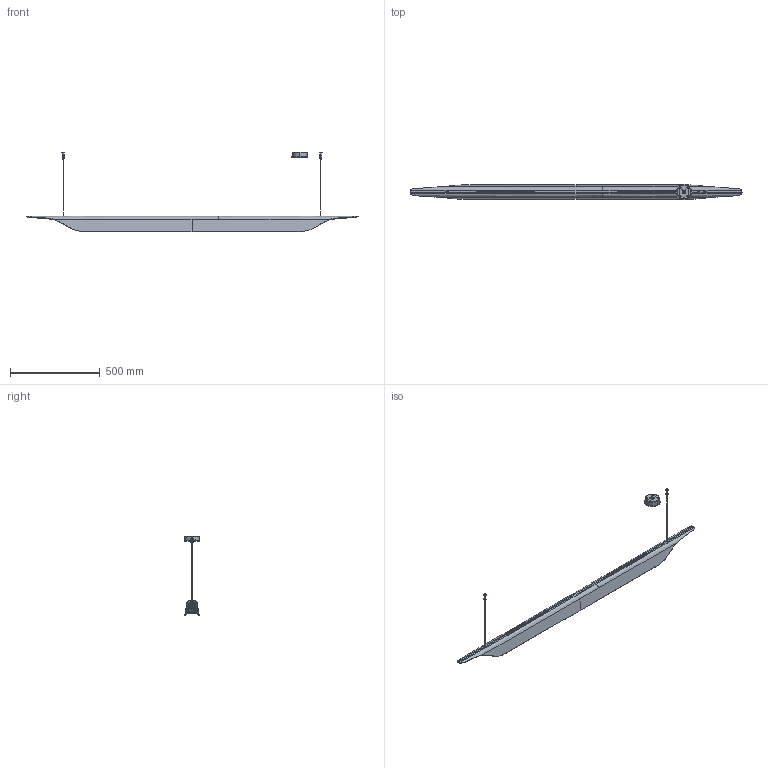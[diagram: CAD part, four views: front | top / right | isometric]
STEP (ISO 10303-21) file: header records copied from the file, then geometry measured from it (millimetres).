
FILE_DESCRIPTION (( 'STEP AP214' ), '1' );
FILE_NAME ('205_MEDIA_S_PL_3D.STEP', '2021-05-19T12:57:43', ( '' ), ( '' ), 'SwSTEP 2.0', 'SolidWorks 2021', '' );
FILE_SCHEMA (( 'AUTOMOTIVE_DESIGN' ));
Length unit declared in the file: millimetre
Products named in the file (1): 205_MEDIA_S_PL_3D
Bounding box: 1846 x 88 x 440 mm (x, y, z)
Volume: 2505413 mm3; surface area: 919898.5 mm2
Topology: 15 solids, 15 shells, 3058 faces, 8332 edges, 5348 vertices
Faces by surface type: cylinder 2021, plane 735, bspline 238, cone 48, torus 16
Entity records: 175806 total; most frequent: CARTESIAN_POINT 58847, DIRECTION 17742, ORIENTED_EDGE 16664, EDGE_CURVE 8332, AXIS2_PLACEMENT_3D 7067, VERTEX_POINT 5348, EDGE_LOOP 4966, CIRCLE 4246
